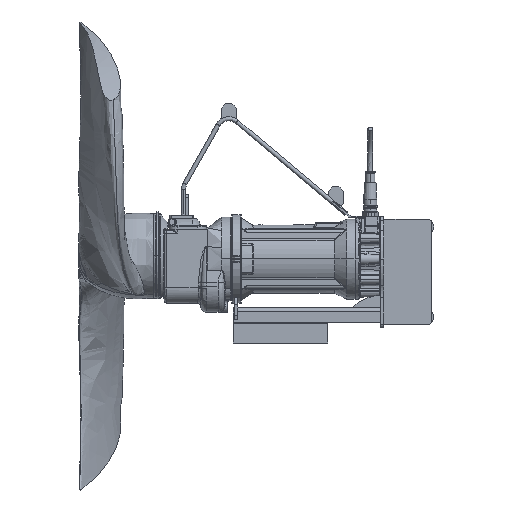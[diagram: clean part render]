
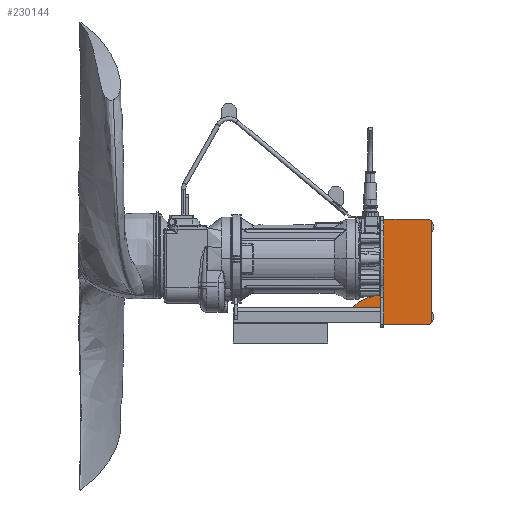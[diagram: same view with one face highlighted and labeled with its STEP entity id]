
A CAD part, top view. The second image highlights one B-rep face of the part: STEP entity #230144.
In plain terms, the highlighted planar face has unit normal (0, 0, 1).
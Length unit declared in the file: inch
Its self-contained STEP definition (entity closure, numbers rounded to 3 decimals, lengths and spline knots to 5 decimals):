
#4462 = CARTESIAN_POINT ( 'NONE',  ( 19.17323, -4.71916, 2.6378 ) ) ;
#9872 = VECTOR ( 'NONE', #254371, 39.37008 ) ;
#17098 = CARTESIAN_POINT ( 'NONE',  ( 15.23622, -6.29396, 2.6378 ) ) ;
#27649 = CARTESIAN_POINT ( 'NONE',  ( 24.92126, 4.72966, 2.6378 ) ) ;
#29550 = ORIENTED_EDGE ( 'NONE', *, *, #369904, .T. ) ;
#31980 = ORIENTED_EDGE ( 'NONE', *, *, #192331, .T. ) ;
#36121 = VERTEX_POINT ( 'NONE', #279610 ) ;
#37188 = CARTESIAN_POINT ( 'NONE',  ( 19.17323, 5.12336, 2.6378 ) ) ;
#37409 = AXIS2_PLACEMENT_3D ( 'NONE', #174151, #46105, #304866 ) ;
#43575 = ORIENTED_EDGE ( 'NONE', *, *, #346717, .T. ) ;
#43658 = CARTESIAN_POINT ( 'NONE',  ( 19.17323, 3.94226, 2.6378 ) ) ;
#44959 = VECTOR ( 'NONE', #181794, 39.37008 ) ;
#46105 = DIRECTION ( 'NONE',  ( 0., 0., -1. ) ) ;
#51483 = ORIENTED_EDGE ( 'NONE', *, *, #331637, .F. ) ;
#52028 = CARTESIAN_POINT ( 'NONE',  ( 24.92126, 5.12336, 2.6378 ) ) ;
#56810 = VERTEX_POINT ( 'NONE', #43658 ) ;
#57360 = VERTEX_POINT ( 'NONE', #17098 ) ;
#59732 = CIRCLE ( 'NONE', #386669, 5.24466 ) ;
#61610 = CARTESIAN_POINT ( 'NONE',  ( 25.31496, -8.06562, 2.6378 ) ) ;
#61869 = VECTOR ( 'NONE', #162722, 39.37008 ) ;
#65113 = VERTEX_POINT ( 'NONE', #108444 ) ;
#68589 = LINE ( 'NONE', #400908, #397222 ) ;
#75924 = CARTESIAN_POINT ( 'NONE',  ( 18.89764, 3.94226, 2.6378 ) ) ;
#77502 = CARTESIAN_POINT ( 'NONE',  ( 15.23622, -6.09711, 2.6378 ) ) ;
#83141 = VERTEX_POINT ( 'NONE', #332121 ) ;
#86325 = DIRECTION ( 'NONE',  ( 1., 0., 0. ) ) ;
#86343 = CARTESIAN_POINT ( 'NONE',  ( 24.92126, -8.06562, 2.6378 ) ) ;
#90641 = VERTEX_POINT ( 'NONE', #397553 ) ;
#96186 = CIRCLE ( 'NONE', #113320, 0.3937 ) ;
#97072 = VECTOR ( 'NONE', #257706, 39.37008 ) ;
#99183 = EDGE_CURVE ( 'NONE', #304071, #65113, #338885, .T. ) ;
#104851 = VECTOR ( 'NONE', #177072, 39.37008 ) ;
#108444 = CARTESIAN_POINT ( 'NONE',  ( 18.89764, 5.12336, 2.6378 ) ) ;
#113320 = AXIS2_PLACEMENT_3D ( 'NONE', #27649, #215551, #250288 ) ;
#123433 = ORIENTED_EDGE ( 'NONE', *, *, #344224, .T. ) ;
#128688 = ORIENTED_EDGE ( 'NONE', *, *, #394989, .T. ) ;
#128819 = VECTOR ( 'NONE', #201487, 39.37008 ) ;
#131806 = VERTEX_POINT ( 'NONE', #77502 ) ;
#132464 = LINE ( 'NONE', #280353, #167244 ) ;
#143844 = VERTEX_POINT ( 'NONE', #183511 ) ;
#158875 = ORIENTED_EDGE ( 'NONE', *, *, #241179, .T. ) ;
#162722 = DIRECTION ( 'NONE',  ( 0., -1., 0. ) ) ;
#167244 = VECTOR ( 'NONE', #283082, 39.37008 ) ;
#169987 = DIRECTION ( 'NONE',  ( 0., 1., 0. ) ) ;
#170942 = VERTEX_POINT ( 'NONE', #291898 ) ;
#174151 = CARTESIAN_POINT ( 'NONE',  ( 24.92126, 4.72966, 2.6378 ) ) ;
#177072 = DIRECTION ( 'NONE',  ( 0., -1., 0. ) ) ;
#179736 = DIRECTION ( 'NONE',  ( 0., 0., -1. ) ) ;
#181794 = DIRECTION ( 'NONE',  ( -1., 0., 0. ) ) ;
#183511 = CARTESIAN_POINT ( 'NONE',  ( 25.31496, 4.72966, 2.6378 ) ) ;
#186453 = DIRECTION ( 'NONE',  ( -1., 0., 0. ) ) ;
#189442 = LINE ( 'NONE', #211811, #104851 ) ;
#192331 = EDGE_CURVE ( 'NONE', #56810, #170942, #405335, .T. ) ;
#193549 = LINE ( 'NONE', #392213, #128819 ) ;
#194795 = EDGE_CURVE ( 'NONE', #170942, #83141, #410095, .T. ) ;
#196885 = VECTOR ( 'NONE', #169987, 39.37008 ) ;
#201487 = DIRECTION ( 'NONE',  ( 1., 0., 0. ) ) ;
#211811 = CARTESIAN_POINT ( 'NONE',  ( 18.89764, 3.94226, 2.6378 ) ) ;
#215551 = DIRECTION ( 'NONE',  ( 0., 0., -1. ) ) ;
#220692 = ORIENTED_EDGE ( 'NONE', *, *, #308885, .F. ) ;
#225399 = EDGE_CURVE ( 'NONE', #65113, #329757, #189442, .T. ) ;
#230144 = ADVANCED_FACE ( 'NONE', ( #368369 ), #271530, .F. ) ;
#232607 = CARTESIAN_POINT ( 'NONE',  ( 25.31496, -8.06562, 2.6378 ) ) ;
#241179 = EDGE_CURVE ( 'NONE', #36121, #90641, #193549, .T. ) ;
#243778 = LINE ( 'NONE', #252974, #9872 ) ;
#250288 = DIRECTION ( 'NONE',  ( -1., 0., 0. ) ) ;
#252974 = CARTESIAN_POINT ( 'NONE',  ( 15.23622, -6.09711, 2.6378 ) ) ;
#254371 = DIRECTION ( 'NONE',  ( 0., -1., 0. ) ) ;
#257337 = CARTESIAN_POINT ( 'NONE',  ( 19.17323, -4.71916, 2.6378 ) ) ;
#257706 = DIRECTION ( 'NONE',  ( 0., -1., 0. ) ) ;
#260494 = DIRECTION ( 'NONE',  ( -1., 0., 0. ) ) ;
#265282 = CARTESIAN_POINT ( 'NONE',  ( 19.17323, -6.29396, 2.6378 ) ) ;
#271530 = PLANE ( 'NONE',  #37409 ) ;
#275798 = CARTESIAN_POINT ( 'NONE',  ( 18.77953, -9.96382, 2.6378 ) ) ;
#279610 = CARTESIAN_POINT ( 'NONE',  ( 19.17323, -8.45932, 2.6378 ) ) ;
#280353 = CARTESIAN_POINT ( 'NONE',  ( 19.17323, 3.94226, 2.6378 ) ) ;
#283082 = DIRECTION ( 'NONE',  ( 1., 0., 0. ) ) ;
#291898 = CARTESIAN_POINT ( 'NONE',  ( 19.17323, -4.71916, 2.6378 ) ) ;
#294880 = EDGE_LOOP ( 'NONE', ( #302340, #128688, #31980, #362693, #220692, #29550, #375746, #43575, #158875, #51483, #123433, #353094, #395767 ) ) ;
#302340 = ORIENTED_EDGE ( 'NONE', *, *, #225399, .T. ) ;
#304071 = VERTEX_POINT ( 'NONE', #52028 ) ;
#304866 = DIRECTION ( 'NONE',  ( -1., 0., 0. ) ) ;
#308885 = EDGE_CURVE ( 'NONE', #131806, #83141, #59732, .T. ) ;
#316279 = LINE ( 'NONE', #232607, #196885 ) ;
#317253 = DIRECTION ( 'NONE',  ( 0., 0., -1. ) ) ;
#323607 = VERTEX_POINT ( 'NONE', #61610 ) ;
#329757 = VERTEX_POINT ( 'NONE', #75924 ) ;
#331637 = EDGE_CURVE ( 'NONE', #323607, #90641, #411612, .T. ) ;
#332121 = CARTESIAN_POINT ( 'NONE',  ( 18.77953, -4.71916, 2.6378 ) ) ;
#338426 = VERTEX_POINT ( 'NONE', #265282 ) ;
#338885 = LINE ( 'NONE', #37188, #44959 ) ;
#344224 = EDGE_CURVE ( 'NONE', #323607, #143844, #316279, .T. ) ;
#346717 = EDGE_CURVE ( 'NONE', #338426, #36121, #375770, .T. ) ;
#349631 = CARTESIAN_POINT ( 'NONE',  ( 19.17323, -8.45932, 2.6378 ) ) ;
#353094 = ORIENTED_EDGE ( 'NONE', *, *, #412031, .F. ) ;
#362693 = ORIENTED_EDGE ( 'NONE', *, *, #194795, .T. ) ;
#368369 = FACE_OUTER_BOUND ( 'NONE', #294880, .T. ) ;
#369904 = EDGE_CURVE ( 'NONE', #131806, #57360, #243778, .T. ) ;
#370433 = DIRECTION ( 'NONE',  ( -1., 0., 0. ) ) ;
#375746 = ORIENTED_EDGE ( 'NONE', *, *, #380783, .T. ) ;
#375770 = LINE ( 'NONE', #349631, #97072 ) ;
#380783 = EDGE_CURVE ( 'NONE', #57360, #338426, #68589, .T. ) ;
#386669 = AXIS2_PLACEMENT_3D ( 'NONE', #275798, #179736, #370433 ) ;
#387121 = AXIS2_PLACEMENT_3D ( 'NONE', #86343, #317253, #186453 ) ;
#392213 = CARTESIAN_POINT ( 'NONE',  ( 19.17323, -8.45932, 2.6378 ) ) ;
#394989 = EDGE_CURVE ( 'NONE', #329757, #56810, #132464, .T. ) ;
#395767 = ORIENTED_EDGE ( 'NONE', *, *, #99183, .T. ) ;
#397222 = VECTOR ( 'NONE', #86325, 39.37008 ) ;
#397553 = CARTESIAN_POINT ( 'NONE',  ( 24.92126, -8.45932, 2.6378 ) ) ;
#400139 = VECTOR ( 'NONE', #260494, 39.37008 ) ;
#400908 = CARTESIAN_POINT ( 'NONE',  ( 15.23622, -6.29396, 2.6378 ) ) ;
#405335 = LINE ( 'NONE', #257337, #61869 ) ;
#410095 = LINE ( 'NONE', #4462, #400139 ) ;
#411612 = CIRCLE ( 'NONE', #387121, 0.3937 ) ;
#412031 = EDGE_CURVE ( 'NONE', #304071, #143844, #96186, .T. ) ;
